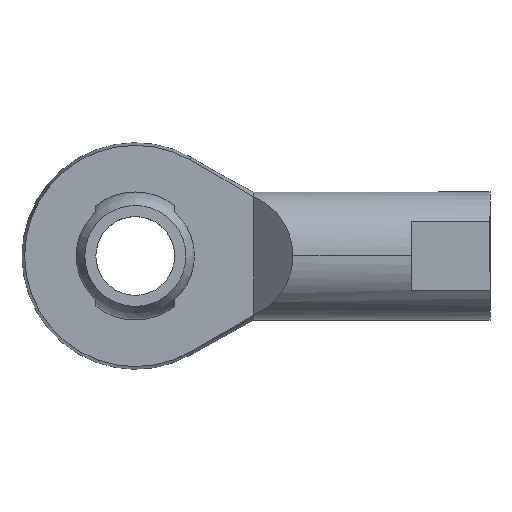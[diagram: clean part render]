
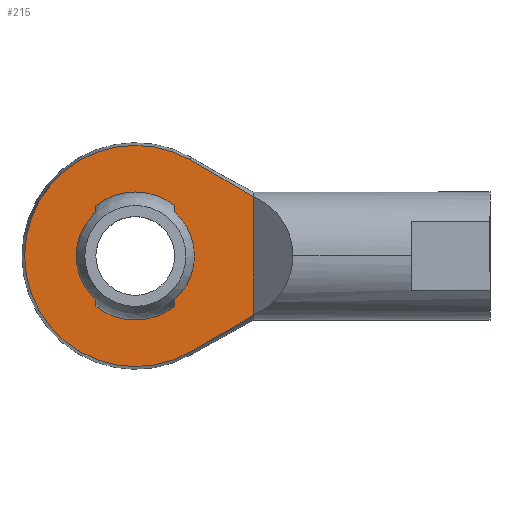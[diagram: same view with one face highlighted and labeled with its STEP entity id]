
A CAD part, top view. The second image highlights one B-rep face of the part: STEP entity #215.
In plain terms, the highlighted planar face has unit normal (0, 0, 1).
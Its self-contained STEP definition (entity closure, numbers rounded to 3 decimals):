
#62 = VERTEX_POINT ( 'NONE', #516 ) ;
#85 = VERTEX_POINT ( 'NONE', #526 ) ;
#95 = EDGE_CURVE ( 'NONE', #309, #384, #561, .T. ) ;
#125 = VERTEX_POINT ( 'NONE', #602 ) ;
#134 = EDGE_CURVE ( 'NONE', #125, #62, #655, .T. ) ;
#175 = VERTEX_POINT ( 'NONE', #705 ) ;
#177 = VERTEX_POINT ( 'NONE', #704 ) ;
#179 = VERTEX_POINT ( 'NONE', #703 ) ;
#203 = ORIENTED_EDGE ( 'NONE', *, *, #204, .F. ) ;
#204 = EDGE_CURVE ( 'NONE', #410, #177, #725, .T. ) ;
#205 = ORIENTED_EDGE ( 'NONE', *, *, #211, .F. ) ;
#211 = EDGE_CURVE ( 'NONE', #177, #225, #768, .T. ) ;
#214 = ORIENTED_EDGE ( 'NONE', *, *, #224, .F. ) ;
#215 = ADVANCED_FACE ( 'NONE', ( #759, #758 ), #757, .F. ) ;
#219 = ORIENTED_EDGE ( 'NONE', *, *, #222, .T. ) ;
#221 = EDGE_LOOP ( 'NONE', ( #214, #219, #205, #203, #412, #375, #376, #370 ) ) ;
#222 = EDGE_CURVE ( 'NONE', #179, #225, #810, .T. ) ;
#224 = EDGE_CURVE ( 'NONE', #179, #175, #805, .T. ) ;
#225 = VERTEX_POINT ( 'NONE', #801 ) ;
#309 = VERTEX_POINT ( 'NONE', #890 ) ;
#324 = EDGE_CURVE ( 'NONE', #85, #359, #911, .T. ) ;
#350 = ORIENTED_EDGE ( 'NONE', *, *, #386, .T. ) ;
#351 = ORIENTED_EDGE ( 'NONE', *, *, #95, .T. ) ;
#359 = VERTEX_POINT ( 'NONE', #966 ) ;
#369 = ORIENTED_EDGE ( 'NONE', *, *, #374, .T. ) ;
#370 = ORIENTED_EDGE ( 'NONE', *, *, #373, .F. ) ;
#371 = EDGE_LOOP ( 'NONE', ( #372, #369, #351, #350 ) ) ;
#372 = ORIENTED_EDGE ( 'NONE', *, *, #324, .T. ) ;
#373 = EDGE_CURVE ( 'NONE', #175, #125, #991, .T. ) ;
#374 = EDGE_CURVE ( 'NONE', #359, #309, #986, .T. ) ;
#375 = ORIENTED_EDGE ( 'NONE', *, *, #1567, .T. ) ;
#376 = ORIENTED_EDGE ( 'NONE', *, *, #134, .F. ) ;
#384 = VERTEX_POINT ( 'NONE', #1026 ) ;
#386 = EDGE_CURVE ( 'NONE', #384, #85, #1025, .T. ) ;
#410 = VERTEX_POINT ( 'NONE', #1038 ) ;
#411 = EDGE_CURVE ( 'NONE', #1595, #410, #1103, .T. ) ;
#412 = ORIENTED_EDGE ( 'NONE', *, *, #411, .F. ) ;
#516 = CARTESIAN_POINT ( 'NONE',  ( -4., 4.472, 2.5 ) ) ;
#526 = CARTESIAN_POINT ( 'NONE',  ( 5.572, -9.745, 2.5 ) ) ;
#554 = CARTESIAN_POINT ( 'NONE',  ( 5.572, 9.745, 2.5 ) ) ;
#555 = CARTESIAN_POINT ( 'NONE',  ( 6.648, 9.129, 2.5 ) ) ;
#556 = CARTESIAN_POINT ( 'NONE',  ( 7.723, 8.511, 2.5 ) ) ;
#557 = CARTESIAN_POINT ( 'NONE',  ( 9.867, 7.265, 2.5 ) ) ;
#558 = CARTESIAN_POINT ( 'NONE',  ( 10.937, 6.638, 2.5 ) ) ;
#559 = CARTESIAN_POINT ( 'NONE',  ( 12., 6., 2.5 ) ) ;
#561 = B_SPLINE_CURVE_WITH_KNOTS ( 'NONE', 3,
 ( #559, #558, #557, #556, #555, #554 ),
 .UNSPECIFIED., .F., .F.,
 ( 4, 2, 4 ),
 ( 0.061, 0.065, 0.068 ),
 .UNSPECIFIED. ) ;
#602 = CARTESIAN_POINT ( 'NONE',  ( -4., 5.123, 2.5 ) ) ;
#652 = DIRECTION ( 'NONE',  ( 0., -1., 0. ) ) ;
#653 = VECTOR ( 'NONE', #652, 1000. ) ;
#654 = CARTESIAN_POINT ( 'NONE',  ( -4., 5.123, 2.5 ) ) ;
#655 = LINE ( 'NONE', #654, #653 ) ;
#703 = CARTESIAN_POINT ( 'NONE',  ( 4., 4.472, 2.5 ) ) ;
#704 = CARTESIAN_POINT ( 'NONE',  ( 4., -5.123, 2.5 ) ) ;
#705 = CARTESIAN_POINT ( 'NONE',  ( 4., 5.123, 2.5 ) ) ;
#725 = CIRCLE ( 'NONE', #782, 6.5 ) ;
#753 = DIRECTION ( 'NONE',  ( -1., 0., 0. ) ) ;
#754 = DIRECTION ( 'NONE',  ( 0., 0., -1. ) ) ;
#755 = CARTESIAN_POINT ( 'NONE',  ( -11.5, -11.5, 2.5 ) ) ;
#756 = AXIS2_PLACEMENT_3D ( 'NONE', #755, #754, #753 ) ;
#757 = PLANE ( 'NONE',  #756 ) ;
#758 = FACE_OUTER_BOUND ( 'NONE', #371, .T. ) ;
#759 = FACE_BOUND ( 'NONE', #221, .T. ) ;
#760 = DIRECTION ( 'NONE',  ( 0., 1., 0. ) ) ;
#761 = VECTOR ( 'NONE', #760, 1000. ) ;
#762 = CARTESIAN_POINT ( 'NONE',  ( 4., 5.123, 2.5 ) ) ;
#768 = LINE ( 'NONE', #762, #761 ) ;
#779 = DIRECTION ( 'NONE',  ( 1., 0., 0. ) ) ;
#780 = DIRECTION ( 'NONE',  ( 0., 0., 1. ) ) ;
#781 = CARTESIAN_POINT ( 'NONE',  ( 0., 0., 2.5 ) ) ;
#782 = AXIS2_PLACEMENT_3D ( 'NONE', #781, #780, #779 ) ;
#801 = CARTESIAN_POINT ( 'NONE',  ( 4., -4.472, 2.5 ) ) ;
#802 = DIRECTION ( 'NONE',  ( 0., 1., 0. ) ) ;
#803 = VECTOR ( 'NONE', #802, 1000. ) ;
#804 = CARTESIAN_POINT ( 'NONE',  ( 4., 5.123, 2.5 ) ) ;
#805 = LINE ( 'NONE', #804, #803 ) ;
#806 = DIRECTION ( 'NONE',  ( -1., 0., 0. ) ) ;
#807 = DIRECTION ( 'NONE',  ( 0., 0., -1. ) ) ;
#808 = CARTESIAN_POINT ( 'NONE',  ( 0., 0., 2.5 ) ) ;
#809 = AXIS2_PLACEMENT_3D ( 'NONE', #808, #807, #806 ) ;
#810 = CIRCLE ( 'NONE', #809, 6. ) ;
#890 = CARTESIAN_POINT ( 'NONE',  ( 12., 6., 2.5 ) ) ;
#903 = CARTESIAN_POINT ( 'NONE',  ( 12., -6., 2.5 ) ) ;
#904 = CARTESIAN_POINT ( 'NONE',  ( 10.937, -6.638, 2.5 ) ) ;
#905 = CARTESIAN_POINT ( 'NONE',  ( 9.867, -7.265, 2.5 ) ) ;
#906 = CARTESIAN_POINT ( 'NONE',  ( 7.723, -8.511, 2.5 ) ) ;
#907 = CARTESIAN_POINT ( 'NONE',  ( 6.648, -9.129, 2.5 ) ) ;
#908 = CARTESIAN_POINT ( 'NONE',  ( 5.572, -9.745, 2.5 ) ) ;
#911 = B_SPLINE_CURVE_WITH_KNOTS ( 'NONE', 3,
 ( #908, #907, #906, #905, #904, #903 ),
 .UNSPECIFIED., .F., .F.,
 ( 4, 2, 4 ),
 ( 0.034, 0.038, 0.042 ),
 .UNSPECIFIED. ) ;
#966 = CARTESIAN_POINT ( 'NONE',  ( 12., -6., 2.5 ) ) ;
#984 = VECTOR ( 'NONE', #1037, 1000. ) ;
#985 = CARTESIAN_POINT ( 'NONE',  ( 12., -11.5, 2.5 ) ) ;
#986 = LINE ( 'NONE', #985, #984 ) ;
#987 = DIRECTION ( 'NONE',  ( 1., 0., 0. ) ) ;
#988 = DIRECTION ( 'NONE',  ( 0., 0., 1. ) ) ;
#989 = CARTESIAN_POINT ( 'NONE',  ( 0., 0., 2.5 ) ) ;
#990 = AXIS2_PLACEMENT_3D ( 'NONE', #989, #988, #987 ) ;
#991 = CIRCLE ( 'NONE', #990, 6.5 ) ;
#1021 = DIRECTION ( 'NONE',  ( -1., 0., 0. ) ) ;
#1022 = DIRECTION ( 'NONE',  ( 0., 0., 1. ) ) ;
#1023 = CARTESIAN_POINT ( 'NONE',  ( 0., 0., 2.5 ) ) ;
#1024 = AXIS2_PLACEMENT_3D ( 'NONE', #1023, #1022, #1021 ) ;
#1025 = CIRCLE ( 'NONE', #1024, 11.225 ) ;
#1026 = CARTESIAN_POINT ( 'NONE',  ( 5.572, 9.745, 2.5 ) ) ;
#1037 = DIRECTION ( 'NONE',  ( 0., 1., 0. ) ) ;
#1038 = CARTESIAN_POINT ( 'NONE',  ( -4., -5.123, 2.5 ) ) ;
#1100 = DIRECTION ( 'NONE',  ( 0., -1., 0. ) ) ;
#1101 = VECTOR ( 'NONE', #1100, 1000. ) ;
#1102 = CARTESIAN_POINT ( 'NONE',  ( -4., 5.123, 2.5 ) ) ;
#1103 = LINE ( 'NONE', #1102, #1101 ) ;
#1124 = DIRECTION ( 'NONE',  ( -1., 0., 0. ) ) ;
#1125 = DIRECTION ( 'NONE',  ( 0., 0., -1. ) ) ;
#1126 = CARTESIAN_POINT ( 'NONE',  ( 0., 0., 2.5 ) ) ;
#1127 = AXIS2_PLACEMENT_3D ( 'NONE', #1126, #1125, #1124 ) ;
#1128 = CIRCLE ( 'NONE', #1127, 6. ) ;
#1192 = CARTESIAN_POINT ( 'NONE',  ( -4., -4.472, 2.5 ) ) ;
#1567 = EDGE_CURVE ( 'NONE', #1595, #62, #1128, .T. ) ;
#1595 = VERTEX_POINT ( 'NONE', #1192 ) ;
